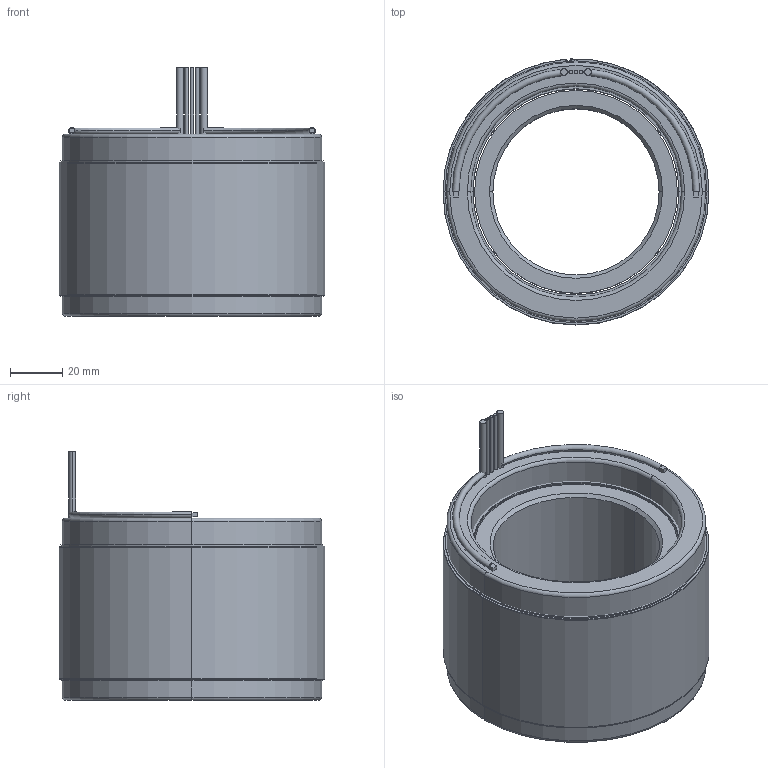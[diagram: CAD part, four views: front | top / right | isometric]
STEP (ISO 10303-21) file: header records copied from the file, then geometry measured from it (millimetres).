
FILE_DESCRIPTION (( 'STEP AP214' ), '1' );
FILE_NAME ('6100339-05.STEP', '2019-10-23T21:18:07', ( '' ), ( '' ), 'SwSTEP 2.0', 'SolidWorks 2016', '' );
FILE_SCHEMA (( 'AUTOMOTIVE_DESIGN' ));
Length unit declared in the file: millimetre
Products named in the file (11): 4450182-XX_4450182-05; 6100339-05; 4250363-XX_4250363-05; 4600555-00; 4500542-XX_4500542-05; COMP4500542-XX(COIL)_COMP4500542-05(COIL); 4150169-XX_4150169-05; 4400095-00
Assembly tree (10 placements, depth 4):
  6100339-05
    4250363-XX_4250363-05
      4150169-XX_4150169-05
    4500542-XX_4500542-05
      4450182-XX_4450182-05
        4450182-XX_4450182-05
        4400095-00
        4400095-00
        4600555-00
        4600555-00
      COMP4500542-XX(COIL)_COMP4500542-05(COIL)
Bounding box: 101.6 x 101.57 x 95 mm (x, y, z)
Volume: 428413.4 mm3; surface area: 131874.7 mm2
Topology: 14 solids, 14 shells, 109 faces, 215 edges, 134 vertices
Faces by surface type: cylinder 49, plane 44, torus 12, cone 4
Entity records: 3342 total; most frequent: DIRECTION 603, CARTESIAN_POINT 474, ORIENTED_EDGE 430, AXIS2_PLACEMENT_3D 263, EDGE_CURVE 215, CIRCLE 138, VERTEX_POINT 134, EDGE_LOOP 123
